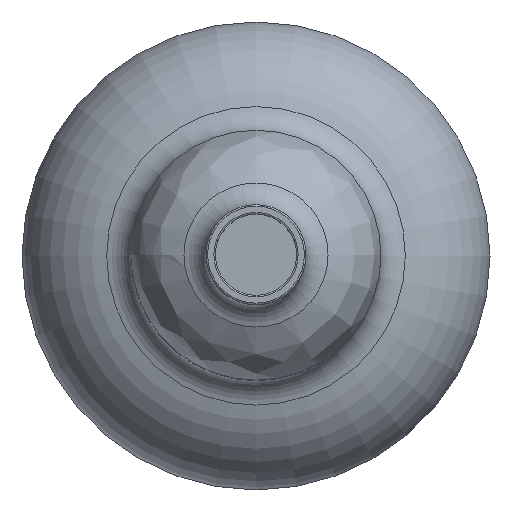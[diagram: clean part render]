
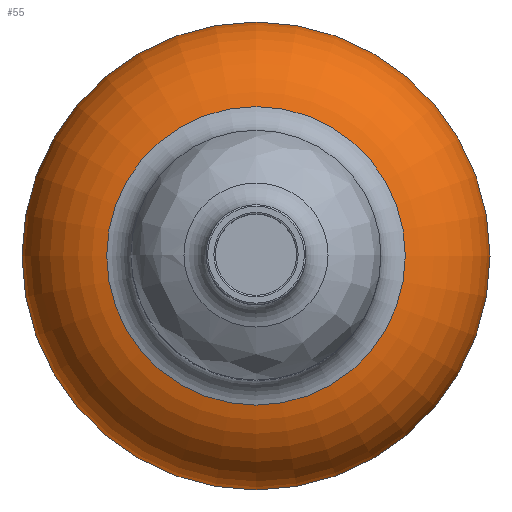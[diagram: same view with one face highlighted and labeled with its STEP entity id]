
A CAD part, top view. The second image highlights one B-rep face of the part: STEP entity #55.
In plain terms, the highlighted toroidal (fillet/blend) face has major radius 40 mm and minor radius 35 mm.
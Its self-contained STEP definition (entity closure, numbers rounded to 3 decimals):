
#55 = ADVANCED_FACE( '', ( #119, #120 ), #121, .T. );
#119 = FACE_OUTER_BOUND( '', #226, .T. );
#120 = FACE_OUTER_BOUND( '', #227, .T. );
#121 = TOROIDAL_SURFACE( '', #228, 40., 35. );
#226 = EDGE_LOOP( '', ( #338 ) );
#227 = EDGE_LOOP( '', ( #339 ) );
#228 = AXIS2_PLACEMENT_3D( '', #340, #341, #342 );
#338 = ORIENTED_EDGE( '', *, *, #412, .T. );
#339 = ORIENTED_EDGE( '', *, *, #413, .F. );
#340 = CARTESIAN_POINT( '', ( 0., 0., 35. ) );
#341 = DIRECTION( '', ( 0., 0., 1. ) );
#342 = DIRECTION( '', ( 1., 0., 0. ) );
#412 = EDGE_CURVE( '', #456, #456, #457, .T. );
#413 = EDGE_CURVE( '', #458, #458, #459, .T. );
#456 = VERTEX_POINT( '', #505 );
#457 = CIRCLE( '', #506, 47.778 );
#458 = VERTEX_POINT( '', #507 );
#459 = CIRCLE( '', #508, 40. );
#505 = CARTESIAN_POINT( '', ( -47.778, 0., 69.125 ) );
#506 = AXIS2_PLACEMENT_3D( '', #557, #558, #559 );
#507 = CARTESIAN_POINT( '', ( -40., 0., 0. ) );
#508 = AXIS2_PLACEMENT_3D( '', #560, #561, #562 );
#557 = CARTESIAN_POINT( '', ( 0., 0., 69.125 ) );
#558 = DIRECTION( '', ( 0., 0., -1. ) );
#559 = DIRECTION( '', ( -1., 0., 0. ) );
#560 = CARTESIAN_POINT( '', ( 0., 0., 0. ) );
#561 = DIRECTION( '', ( 0., 0., -1. ) );
#562 = DIRECTION( '', ( -1., 0., 0. ) );
